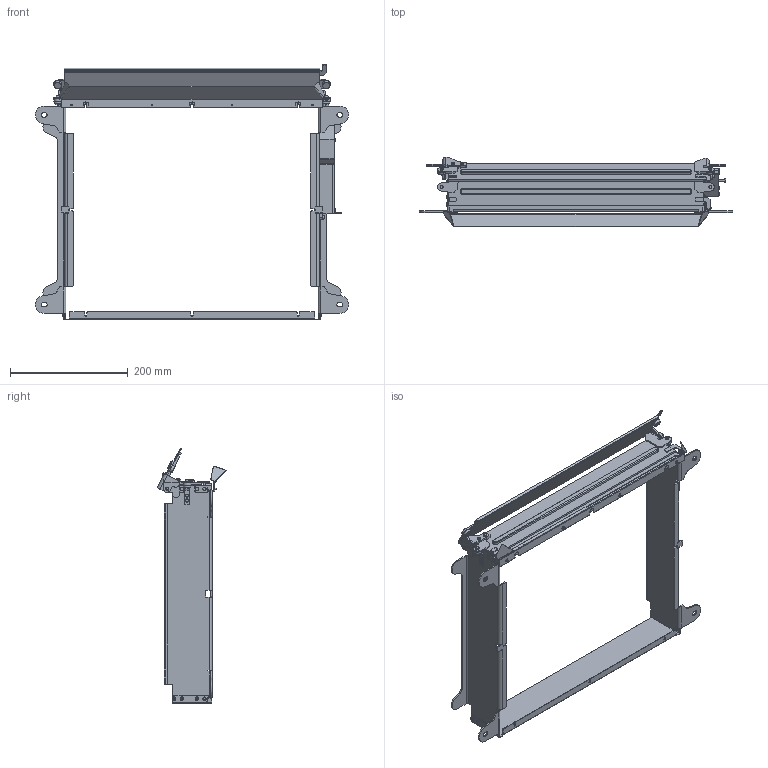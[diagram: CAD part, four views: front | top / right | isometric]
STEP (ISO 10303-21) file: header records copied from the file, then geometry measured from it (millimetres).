
FILE_DESCRIPTION (( 'STEP AP203' ), '1' );
FILE_NAME ('Asyril_PLATFORM FRAME LEFT PURGE H=68mm - 530_000.103.796_(option).STEP', '2020-10-08T13:14:58', ( '' ), ( '' ), 'SwSTEP 2.0', 'SolidWorks 2017', '' );
FILE_SCHEMA (( 'CONFIG_CONTROL_DESIGN' ));
Length unit declared in the file: millimetre
Products named in the file (3): Asyril_PLATFORM FRAME LEFT PURGE H=68mm - 530_000.103.796_(option); Asyril_PLATFORM FRAME LEFT PURGE H=68mm - 530_000.103.796_CLOSED_(option); Asyril_PLATFORM FRAME LEFT PURGE H=68mm - 530_000.103.796_OPEN_(option)
Assembly tree (2 placements, depth 2):
  Asyril_PLATFORM FRAME LEFT PURGE H=68mm - 530_000.103.796_(option)
    Asyril_PLATFORM FRAME LEFT PURGE H=68mm - 530_000.103.796_CLOSED_(option)
    Asyril_PLATFORM FRAME LEFT PURGE H=68mm - 530_000.103.796_OPEN_(option)
Bounding box: 531.9 x 118.28 x 434.36 mm (x, y, z)
Volume: 1154492.1 mm3; surface area: 743483.1 mm2
Topology: 4 solids, 20 shells, 2011 faces, 5037 edges, 3166 vertices
Faces by surface type: plane 1015, cylinder 780, cone 116, torus 76, bspline 24
Entity records: 61522 total; most frequent: CARTESIAN_POINT 11759, DIRECTION 10857, ORIENTED_EDGE 10074, EDGE_CURVE 5037, AXIS2_PLACEMENT_3D 3952, VERTEX_POINT 3166, VECTOR 2953, LINE 2953
